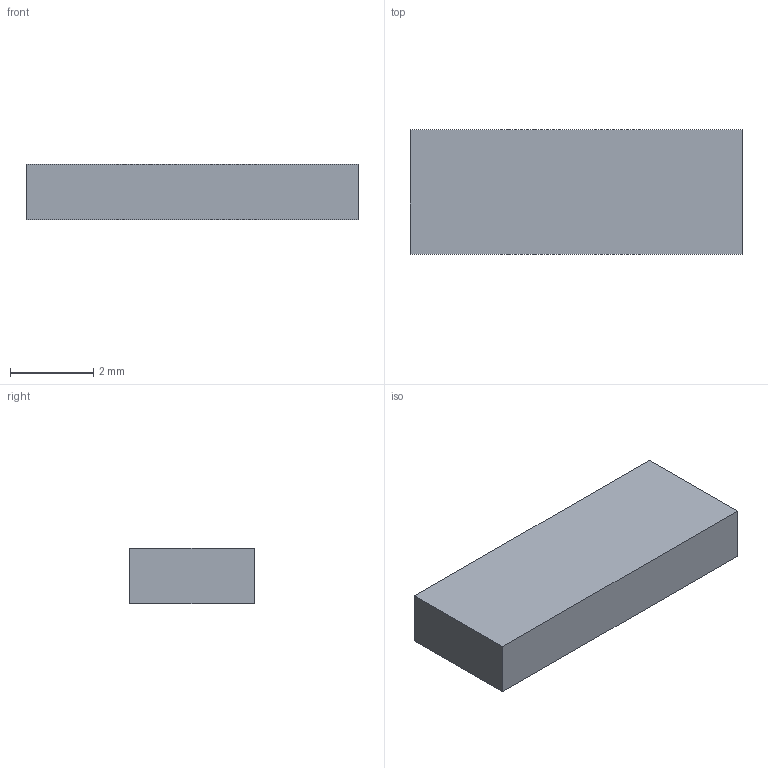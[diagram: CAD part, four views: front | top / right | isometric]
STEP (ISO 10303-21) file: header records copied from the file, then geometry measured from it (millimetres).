
FILE_DESCRIPTION((''),'2;1');
FILE_NAME('M830120','2018-01-19T',('mrodriguez'),(''),'CREO PARAMETRIC BY PTC INC, 2016130','CREO PARAMETRIC BY PTC INC, 2016130','');
FILE_SCHEMA(('AUTOMOTIVE_DESIGN { 1 0 10303 214 1 1 1 1 }'));
Length unit declared in the file: millimetre
Products named in the file (1): M830120
Bounding box: 8 x 3 x 1.33 mm (x, y, z)
Volume: 31.9 mm3; surface area: 77.3 mm2
Topology: 1 solids, 1 shells, 6 faces, 299 edges, 295 vertices
Faces by surface type: plane 6
Entity records: 3024 total; most frequent: PRESENTATION_STYLE_ASSIGNMENT 319, STYLED_ITEM 319, CURVE_STYLE 318, CARTESIAN_POINT 316, DIRECTION 313, VECTOR 299, LINE 299, TRIMMED_CURVE 287
